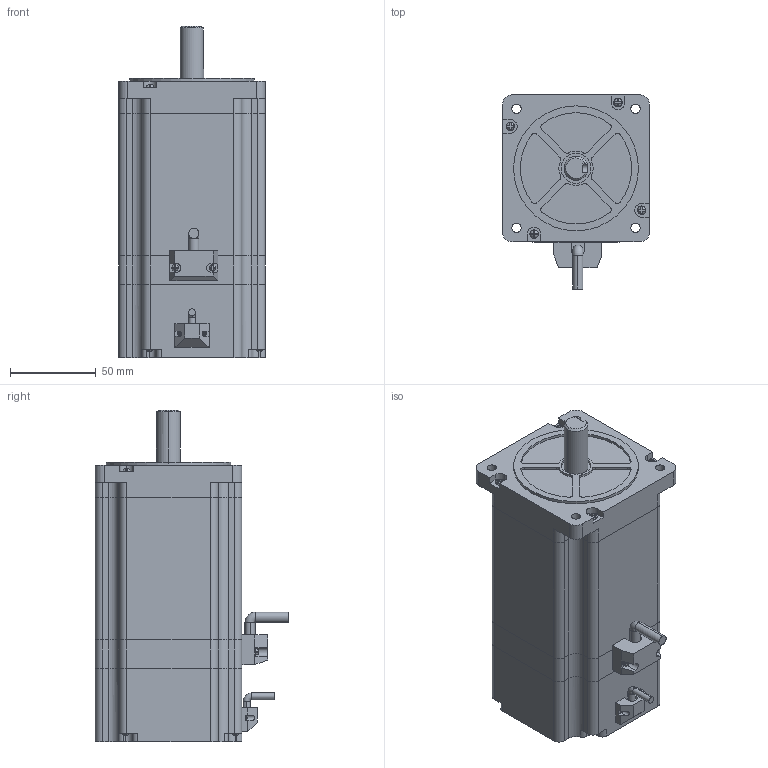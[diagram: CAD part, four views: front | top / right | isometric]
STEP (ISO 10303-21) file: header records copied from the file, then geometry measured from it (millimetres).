
FILE_DESCRIPTION (( 'STEP AP214' ), '1' );
FILE_NAME ('86-118-305.STEP', '2021-08-24T07:20:51', ( 'HP' ), ( 'CZLH' ), 'SwSTEP 2.0', 'SolidWorks 2012', '' );
FILE_SCHEMA (( 'AUTOMOTIVE_DESIGN' ));
Length unit declared in the file: millimetre
Products named in the file (1): 86-118-305
Bounding box: 85.8 x 113.3 x 193.7 mm (x, y, z)
Surface area: 72894.4 mm2 (no closed solid volume)
Topology: 0 solids, 9 shells, 382 faces, 1219 edges, 823 vertices
Faces by surface type: plane 211, cylinder 144, sphere 22, torus 3, cone 2
Entity records: 17615 total; most frequent: DIRECTION 2459, CARTESIAN_POINT 2455, ORIENTED_EDGE 2049, EDGE_CURVE 1207, AXIS2_PLACEMENT_3D 875, VERTEX_POINT 819, VECTOR 709, LINE 709
